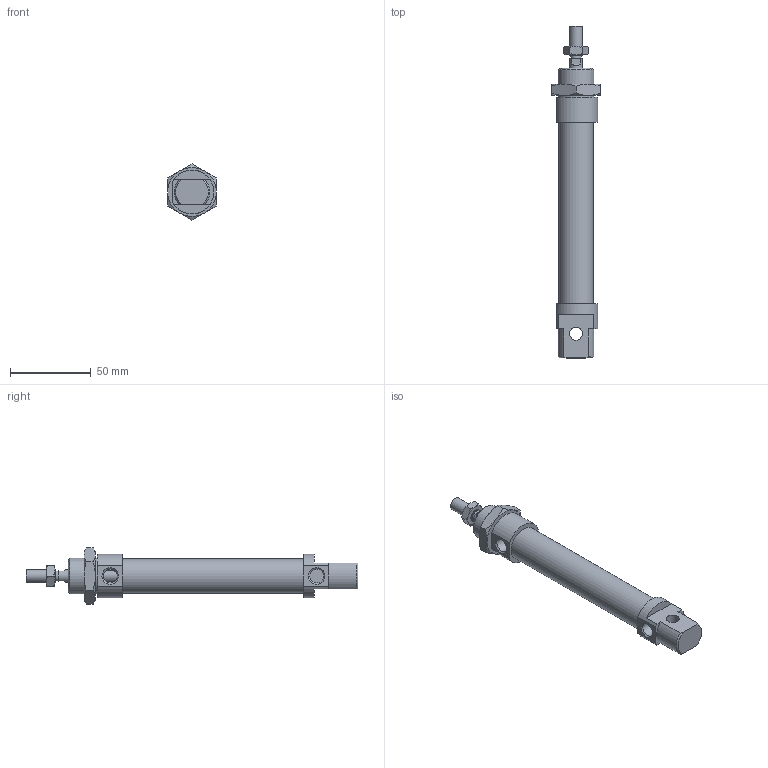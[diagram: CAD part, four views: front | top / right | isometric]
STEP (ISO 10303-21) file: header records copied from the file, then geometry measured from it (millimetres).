
FILE_DESCRIPTION((''),'2;1');
FILE_NAME('I:\Area Tecnica\Disegni\VARIE-3D\Componenti\1280\1280_##_####_#\1280_20_0075.iam.stp','2009-06-04T09:44:14',(''),(''),'Autodesk Inventor 2010','Autodesk Inventor 2010','');
FILE_SCHEMA(('AUTOMOTIVE_DESIGN { 1 0 10303 214 1 1 1 1 }'));
Length unit declared in the file: millimetre
Products named in the file (5): 1280_20_0075; C1280_20_75; S1280_20_75; 1200_20_05; 1200_20_06
Assembly tree (4 placements, depth 2):
  1280_20_0075
    C1280_20_75
    S1280_20_75
    1200_20_05
    1200_20_06
Bounding box: 30 x 205 x 34.64 mm (x, y, z)
Volume: 70831.1 mm3; surface area: 23296.4 mm2
Topology: 4 solids, 4 shells, 92 faces, 204 edges, 125 vertices
Faces by surface type: plane 41, cone 28, bspline 12, cylinder 11
Full cylindrical faces by diameter (mm): 6.5 x1, 8 x4, 21.2 x1, 22 x1
Entity records: 2742 total; most frequent: CARTESIAN_POINT 697, DIRECTION 376, ORIENTED_EDGE 356, EDGE_CURVE 178, AXIS2_PLACEMENT_3D 163, EDGE_LOOP 124, VERTEX_POINT 118, STYLED_ITEM 96
